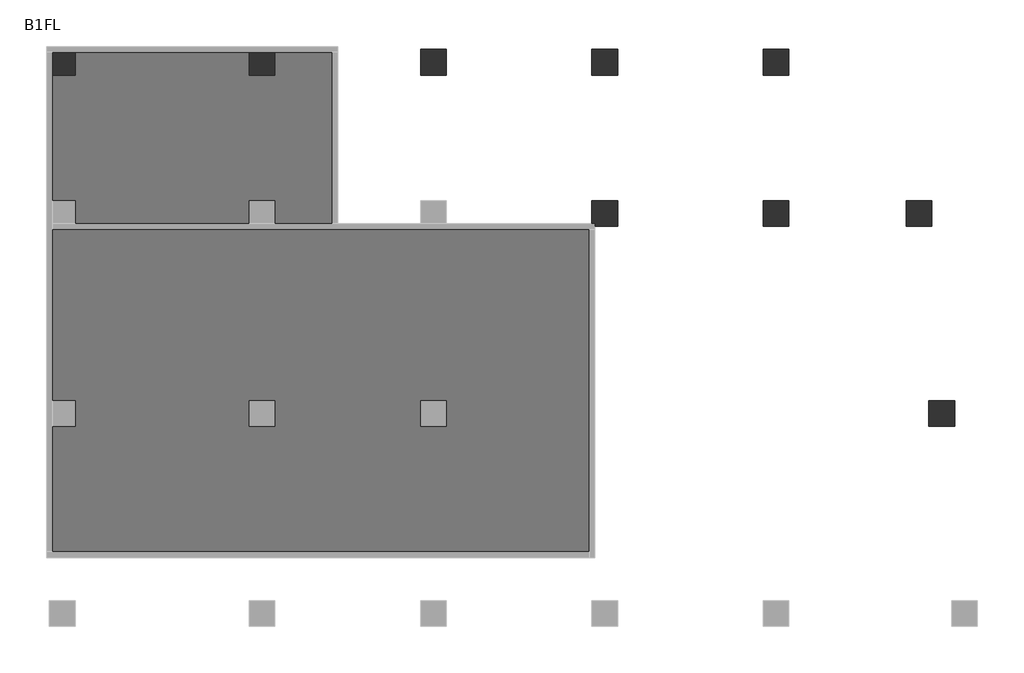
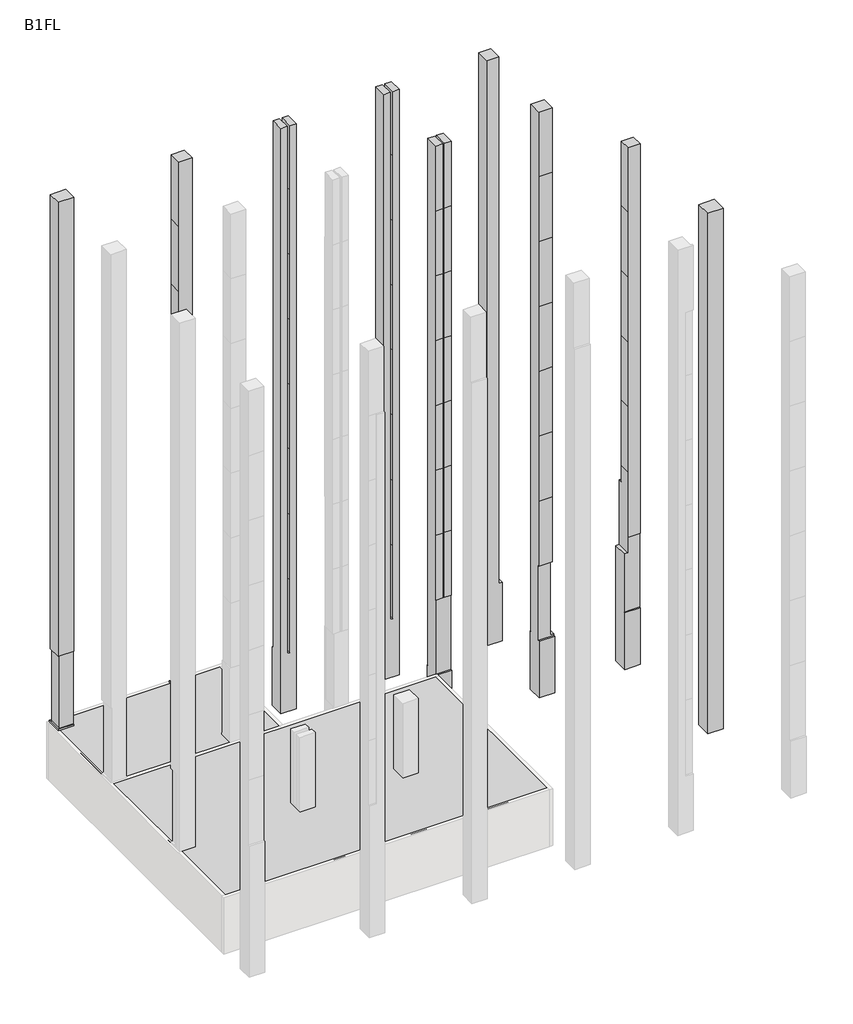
# One storey, part 2 of 2: 9 columns, 2 proxies.
"""IFC4 building model written with IfcOpenShell, lengths in millimetres."""

from ifc_helpers import new_model, si_unit, frame, origin, place, context, project, spatial, polyline, outline, extrude, faceted_brep, transform, mapped, element, save
from components import column_900x900_9fb1827b

model = new_model("IFC4")

# Units and contexts
model_context = context("Model", 3, world=origin())
ifc_project = project(units=[si_unit("LENGTHUNIT", "METRE", prefix="MILLI")], contexts=[model_context])

# Site, building, storey
site = spatial("IfcSite", under=ifc_project)
building = spatial("IfcBuilding", under=site)
storey = spatial("IfcBuildingStorey", under=building, Name="B1FL", Elevation=-3500.0)

# Proxies
placement = place(None, origin())
element("IfcBuildingElementProxy", 1, Name="i_共用9 : i_共用9", ObjectType="i_共用9 : i_共用9", at=placement, inside=storey, context=model_context, shape_type="SweptSolid", body=[
    extrude(outline(polyline([(-18845.9784025, 16649.6868987), (-18845.9784025, 10449.6868987), (-28845.9784025, 10449.6868987), (-28845.9784025, 16649.6868987), (-18845.9784025, 16649.6868987)])), frame((0.0, 0.0, -3500.0), z_axis=(0.0, 0.0, 1.0), x_axis=(1.0, 0.0, 0.0)), (0.0, 0.0, 1.0), 3500.0),
])
element("IfcBuildingElementProxy", 2, Name="i_共用10 : i_共用10", ObjectType="i_共用10 : i_共用10", at=placement, inside=storey, context=model_context, shape_type="SweptSolid", body=[
    extrude(outline(polyline([(-9845.9784025, 10449.6868987), (-9845.9784025, -1050.3131013), (-28845.9784025, -1050.3131013), (-28845.9784025, 10449.6868987), (-9845.9784025, 10449.6868987)])), frame((0.0, 0.0, -3500.0), z_axis=(0.0, 0.0, 1.0), x_axis=(1.0, 0.0, 0.0)), (0.0, 0.0, 1.0), 3500.0),
])

# Columns
element("IfcColumn", 3, ObjectType="r 矩形柱 : 900x900", at=placement, inside=storey, context=model_context, shape_type="Brep", body=[
    faceted_brep([(-28845.9784025, 15749.6868987, 32600.0), (-27945.9784025, 15749.6868987, 32600.0), (-27945.9784025, 16549.6868987, 32600.0), (-28845.9784025, 16549.6868987, 32600.0), (-27945.9784025, 16549.6868987, -3500.0), (-27945.9784025, 15749.6868987, -3500.0), (-28745.9784025, 15749.6868987, -3500.0), (-28745.9784025, 16549.6868987, -3500.0), (-27945.9784025, 16549.6868987, 8600.0), (-27945.9784025, 16549.6868987, 12600.0), (-27945.9784025, 16549.6868987, 16600.0), (-27945.9784025, 16549.6868987, 20600.0), (-27945.9784025, 16549.6868987, 24600.0), (-27945.9784025, 16549.6868987, 28600.0), (-27945.9784025, 15749.6868987, 4600.0), (-27945.9784025, 15799.6868987, 4600.0), (-27945.9784025, 15799.6868987, 100.0), (-27945.9784025, 15749.6868987, 100.0), (-27945.9784025, 16549.6868987, 0.0), (-27945.9784025, 16649.6868987, 0.0), (-27945.9784025, 16649.6868987, 100.0), (-27945.9784025, 16549.6868987, 100.0), (-27945.9784025, 16549.6868987, 4600.0), (-28845.9784025, 16549.6868987, 12600.0), (-28845.9784025, 16549.6868987, 8600.0), (-28845.9784025, 16549.6868987, 4600.0), (-28845.9784025, 15749.6868987, 4600.0), (-28845.9784025, 16549.6868987, 28600.0), (-28845.9784025, 16549.6868987, 24600.0), (-28845.9784025, 16549.6868987, 20600.0), (-28845.9784025, 16549.6868987, 16600.0), (-28745.9784025, 15749.6868987, 4600.0), (-28845.9784025, 16649.6868987, 100.0), (-28845.9784025, 16649.6868987, 0.0), (-28745.9784025, 16549.6868987, 4600.0), (-28745.9784025, 16549.6868987, 100.0), (-28845.9784025, 16549.6868987, 100.0), (-28745.9784025, 15799.6868987, 100.0), (-28745.9784025, 15799.6868987, 4600.0), (-28845.9784025, 15749.6868987, 100.0), (-28745.9784025, 15749.6868987, 100.0), (-28845.9784025, 16549.6868987, 0.0), (-28845.9784025, 15749.6868987, 0.0), (-28745.9784025, 16549.6868987, 0.0), (-28745.9784025, 15749.6868987, 0.0)], [[[0, 1, 2, 3]], [[4, 5, 6, 7]], [[8, 9, 10, 11, 12, 13, 2, 1, 14, 15, 16, 17, 5, 4, 18, 19, 20, 21, 22]], [[23, 24, 25, 26, 0, 3, 27, 28, 29, 30]], [[1, 0, 26, 31, 14]], [[9, 8, 24, 23]], [[32, 20, 19, 33]], [[8, 22, 34, 25, 24]], [[10, 9, 23, 30]], [[11, 10, 30, 29]], [[12, 11, 29, 28]], [[13, 12, 28, 27]], [[3, 2, 13, 27]], [[22, 21, 35, 34]], [[21, 20, 32, 36, 35]], [[34, 35, 37, 38]], [[36, 39, 40, 37, 35]], [[26, 25, 34, 38, 31]], [[36, 32, 33, 41, 42, 39]], [[18, 4, 7, 43]], [[19, 18, 43, 41, 33]], [[44, 43, 7, 6]], [[43, 44, 42, 41]], [[37, 16, 15, 38]], [[16, 37, 40, 17]], [[38, 15, 14, 31]], [[40, 39, 42, 44, 6, 5, 17]]]),
])
element("IfcColumn", 4, ObjectType="r 矩形柱 : 900x900", at=placement, inside=storey, context=model_context, shape_type="Brep", body=[
    faceted_brep([(-21020.9784025, 15749.6868987, 32600.0), (-21020.9784025, 16549.6868987, 32600.0), (-21795.9784025, 16549.6868987, 32600.0), (-21795.9784025, 15749.6868987, 32600.0), (-20945.9784025, 15749.6868987, -3500.0), (-21845.9784025, 15749.6868987, -3500.0), (-21845.9784025, 16549.6868987, -3500.0), (-20945.9784025, 16549.6868987, -3500.0), (-20945.9784025, 15749.6868987, 100.0), (-21020.9784025, 15749.6868987, 100.0), (-21020.9784025, 15749.6868987, 4600.0), (-21020.9784025, 15749.6868987, 8600.0), (-21020.9784025, 15749.6868987, 12600.0), (-21020.9784025, 15749.6868987, 16600.0), (-21020.9784025, 15749.6868987, 20600.0), (-21020.9784025, 15749.6868987, 24600.0), (-21020.9784025, 15749.6868987, 28600.0), (-21795.9784025, 15749.6868987, 28600.0), (-21795.9784025, 15749.6868987, 24600.0), (-21795.9784025, 15749.6868987, 20600.0), (-21795.9784025, 15749.6868987, 16600.0), (-21795.9784025, 15749.6868987, 12600.0), (-21795.9784025, 15749.6868987, 8600.0), (-21795.9784025, 15749.6868987, 4600.0), (-21795.9784025, 15749.6868987, 100.0), (-21845.9784025, 15749.6868987, 100.0), (-21020.9784025, 16549.6868987, 12600.0), (-21020.9784025, 16549.6868987, 8600.0), (-21795.9784025, 16549.6868987, 8600.0), (-21795.9784025, 16549.6868987, 12600.0), (-21845.9784025, 16649.6868987, 100.0), (-20945.9784025, 16649.6868987, 100.0), (-20945.9784025, 16649.6868987, 0.0), (-21845.9784025, 16649.6868987, 0.0), (-20945.9784025, 16549.6868987, 100.0), (-20945.9784025, 16549.6868987, 0.0), (-21845.9784025, 16549.6868987, 100.0), (-21845.9784025, 16549.6868987, 0.0), (-21020.9784025, 16549.6868987, 4600.0), (-21795.9784025, 16549.6868987, 4600.0), (-21795.9784025, 16549.6868987, 16600.0), (-21020.9784025, 16549.6868987, 16600.0), (-21795.9784025, 16549.6868987, 20600.0), (-21020.9784025, 16549.6868987, 20600.0), (-21795.9784025, 16549.6868987, 24600.0), (-21020.9784025, 16549.6868987, 24600.0), (-21795.9784025, 16549.6868987, 28600.0), (-21020.9784025, 16549.6868987, 28600.0), (-21020.9784025, 16549.6868987, 100.0), (-21795.9784025, 16549.6868987, 100.0)], [[[0, 1, 2, 3]], [[4, 5, 6, 7]], [[5, 4, 8, 9, 10, 11, 12, 13, 14, 15, 16, 0, 3, 17, 18, 19, 20, 21, 22, 23, 24, 25]], [[26, 27, 28, 29]], [[30, 31, 32, 33]], [[12, 11, 27, 26]], [[31, 34, 8, 4, 7, 35, 32]], [[22, 21, 29, 28]], [[36, 30, 33, 37, 6, 5, 25]], [[28, 27, 38, 39]], [[11, 10, 38, 27]], [[23, 22, 28, 39]], [[26, 29, 40, 41]], [[13, 12, 26, 41]], [[21, 20, 40, 29]], [[41, 40, 42, 43]], [[14, 13, 41, 43]], [[20, 19, 42, 40]], [[43, 42, 44, 45]], [[15, 14, 43, 45]], [[19, 18, 44, 42]], [[45, 44, 46, 47]], [[16, 15, 45, 47]], [[18, 17, 46, 44]], [[47, 46, 2, 1]], [[1, 0, 16, 47]], [[3, 2, 46, 17]], [[39, 38, 48, 49]], [[31, 30, 36, 49, 48, 34]], [[9, 48, 38, 10]], [[48, 9, 8, 34]], [[37, 35, 7, 6]], [[35, 37, 33, 32]], [[49, 24, 23, 39]], [[24, 49, 36, 25]]]),
])
element("IfcColumn", 5, ObjectType="r 矩形柱 : 900x900", at=placement, inside=storey, context=model_context, shape_type="Brep", body=[
    faceted_brep([(-14945.9784025, 15749.6868987, 32600.0), (-14945.9784025, 16549.6868987, 32600.0), (-15320.9784025, 16549.6868987, 32600.0), (-15320.9784025, 15749.6868987, 32600.0), (-14945.9784025, 15749.6868987, -3500.0), (-15845.9784025, 15749.6868987, -3500.0), (-15845.9784025, 16649.6868987, -3500.0), (-14945.9784025, 16649.6868987, -3500.0), (-14945.9784025, 16649.6868987, 100.0), (-14945.9784025, 16549.6868987, 100.0), (-14945.9784025, 16549.6868987, 4600.0), (-14945.9784025, 16549.6868987, 8600.0), (-14945.9784025, 16549.6868987, 12600.0), (-14945.9784025, 16549.6868987, 16600.0), (-14945.9784025, 16549.6868987, 20600.0), (-14945.9784025, 16549.6868987, 24600.0), (-14945.9784025, 16549.6868987, 28600.0), (-15845.9784025, 15749.6868987, 32600.0), (-15845.9784025, 16549.6868987, 32600.0), (-15845.9784025, 16549.6868987, 28600.0), (-15845.9784025, 16549.6868987, 24600.0), (-15845.9784025, 16549.6868987, 20600.0), (-15845.9784025, 16549.6868987, 16600.0), (-15845.9784025, 16549.6868987, 12600.0), (-15845.9784025, 16549.6868987, 8600.0), (-15845.9784025, 16549.6868987, 4600.0), (-15845.9784025, 16549.6868987, 100.0), (-15845.9784025, 16649.6868987, 100.0), (-15320.9784025, 15749.6868987, 28600.0), (-15320.9784025, 15749.6868987, 24600.0), (-15320.9784025, 15749.6868987, 20600.0), (-15320.9784025, 15749.6868987, 16600.0), (-15320.9784025, 15749.6868987, 12600.0), (-15320.9784025, 15749.6868987, 8600.0), (-15320.9784025, 15749.6868987, 4600.0), (-15320.9784025, 15749.6868987, 100.0), (-15470.9784025, 15749.6868987, 100.0), (-15470.9784025, 15749.6868987, 4600.0), (-15470.9784025, 15749.6868987, 8600.0), (-15470.9784025, 15749.6868987, 12600.0), (-15470.9784025, 15749.6868987, 16600.0), (-15470.9784025, 15749.6868987, 20600.0), (-15470.9784025, 15749.6868987, 24600.0), (-15470.9784025, 15749.6868987, 28600.0), (-15470.9784025, 15749.6868987, 32600.0), (-15470.9784025, 16549.6868987, 12600.0), (-15470.9784025, 16549.6868987, 8600.0), (-15320.9784025, 16549.6868987, 12600.0), (-15320.9784025, 16549.6868987, 8600.0), (-15470.9784025, 16549.6868987, 4600.0), (-15320.9784025, 16549.6868987, 4600.0), (-15470.9784025, 16549.6868987, 16600.0), (-15320.9784025, 16549.6868987, 16600.0), (-15470.9784025, 16549.6868987, 20600.0), (-15320.9784025, 16549.6868987, 20600.0), (-15470.9784025, 16549.6868987, 24600.0), (-15320.9784025, 16549.6868987, 24600.0), (-15470.9784025, 16549.6868987, 28600.0), (-15320.9784025, 16549.6868987, 28600.0), (-15470.9784025, 16549.6868987, 32600.0), (-15470.9784025, 16549.6868987, 100.0), (-15320.9784025, 16549.6868987, 100.0)], [[[0, 1, 2, 3]], [[4, 5, 6, 7]], [[4, 7, 8, 9, 10, 11, 12, 13, 14, 15, 16, 1, 0]], [[6, 5, 17, 18, 19, 20, 21, 22, 23, 24, 25, 26, 27]], [[5, 4, 0, 3, 28, 29, 30, 31, 32, 33, 34, 35, 36, 37, 38, 39, 40, 41, 42, 43, 44, 17]], [[24, 23, 45, 46]], [[7, 6, 27, 8]], [[33, 32, 47, 48]], [[39, 38, 46, 45]], [[12, 11, 48, 47]], [[25, 24, 46, 49]], [[34, 33, 48, 50]], [[38, 37, 49, 46]], [[11, 10, 50, 48]], [[23, 22, 51, 45]], [[32, 31, 52, 47]], [[40, 39, 45, 51]], [[13, 12, 47, 52]], [[22, 21, 53, 51]], [[31, 30, 54, 52]], [[41, 40, 51, 53]], [[14, 13, 52, 54]], [[21, 20, 55, 53]], [[30, 29, 56, 54]], [[42, 41, 53, 55]], [[15, 14, 54, 56]], [[20, 19, 57, 55]], [[29, 28, 58, 56]], [[43, 42, 55, 57]], [[16, 15, 56, 58]], [[19, 18, 59, 57]], [[3, 2, 58, 28]], [[59, 44, 43, 57]], [[18, 17, 44, 59]], [[1, 16, 58, 2]], [[26, 25, 49, 60]], [[9, 8, 27, 26, 60, 61]], [[61, 35, 34, 50]], [[36, 60, 49, 37]], [[35, 61, 60, 36]], [[10, 9, 61, 50]]]),
])
element("IfcColumn", 6, ObjectType="r 矩形柱 : 900x900", at=placement, inside=storey, context=model_context, shape_type="Brep", body=[
    faceted_brep([(-8945.9784025, 15749.6868987, 32600.0), (-8945.9784025, 16549.6868987, 32600.0), (-9320.9784025, 16549.6868987, 32600.0), (-9320.9784025, 15749.6868987, 32600.0), (-8945.9784025, 15749.6868987, -3500.0), (-9845.9784025, 15749.6868987, -3500.0), (-9845.9784025, 16649.6868987, -3500.0), (-8945.9784025, 16649.6868987, -3500.0), (-8945.9784025, 16649.6868987, 100.0), (-8945.9784025, 16549.6868987, 100.0), (-8945.9784025, 16549.6868987, 4600.0), (-8945.9784025, 16549.6868987, 8600.0), (-8945.9784025, 16549.6868987, 12600.0), (-8945.9784025, 16549.6868987, 16600.0), (-8945.9784025, 16549.6868987, 20600.0), (-8945.9784025, 16549.6868987, 24600.0), (-8945.9784025, 16549.6868987, 28600.0), (-9845.9784025, 15749.6868987, 32600.0), (-9845.9784025, 16549.6868987, 32600.0), (-9845.9784025, 16549.6868987, 28600.0), (-9845.9784025, 16549.6868987, 24600.0), (-9845.9784025, 16549.6868987, 20600.0), (-9845.9784025, 16549.6868987, 16600.0), (-9845.9784025, 16549.6868987, 12600.0), (-9845.9784025, 16549.6868987, 8600.0), (-9845.9784025, 16549.6868987, 4600.0), (-9845.9784025, 16549.6868987, 100.0), (-9845.9784025, 16649.6868987, 100.0), (-9320.9784025, 15749.6868987, 28600.0), (-9320.9784025, 15749.6868987, 24600.0), (-9320.9784025, 15749.6868987, 20600.0), (-9320.9784025, 15749.6868987, 16600.0), (-9320.9784025, 15749.6868987, 12600.0), (-9320.9784025, 15749.6868987, 8600.0), (-9320.9784025, 15749.6868987, 4600.0), (-9320.9784025, 15749.6868987, 100.0), (-9470.9784025, 15749.6868987, 100.0), (-9470.9784025, 15749.6868987, 4600.0), (-9470.9784025, 15749.6868987, 8600.0), (-9470.9784025, 15749.6868987, 12600.0), (-9470.9784025, 15749.6868987, 16600.0), (-9470.9784025, 15749.6868987, 20600.0), (-9470.9784025, 15749.6868987, 24600.0), (-9470.9784025, 15749.6868987, 28600.0), (-9470.9784025, 15749.6868987, 32600.0), (-9470.9784025, 16549.6868987, 12600.0), (-9470.9784025, 16549.6868987, 8600.0), (-9320.9784025, 16549.6868987, 12600.0), (-9320.9784025, 16549.6868987, 8600.0), (-9470.9784025, 16549.6868987, 4600.0), (-9320.9784025, 16549.6868987, 4600.0), (-9470.9784025, 16549.6868987, 16600.0), (-9320.9784025, 16549.6868987, 16600.0), (-9470.9784025, 16549.6868987, 20600.0), (-9320.9784025, 16549.6868987, 20600.0), (-9470.9784025, 16549.6868987, 24600.0), (-9320.9784025, 16549.6868987, 24600.0), (-9470.9784025, 16549.6868987, 28600.0), (-9320.9784025, 16549.6868987, 28600.0), (-9470.9784025, 16549.6868987, 32600.0), (-9470.9784025, 16549.6868987, 100.0), (-9320.9784025, 16549.6868987, 100.0)], [[[0, 1, 2, 3]], [[4, 5, 6, 7]], [[4, 7, 8, 9, 10, 11, 12, 13, 14, 15, 16, 1, 0]], [[6, 5, 17, 18, 19, 20, 21, 22, 23, 24, 25, 26, 27]], [[5, 4, 0, 3, 28, 29, 30, 31, 32, 33, 34, 35, 36, 37, 38, 39, 40, 41, 42, 43, 44, 17]], [[24, 23, 45, 46]], [[7, 6, 27, 8]], [[39, 38, 46, 45]], [[33, 32, 47, 48]], [[12, 11, 48, 47]], [[25, 24, 46, 49]], [[38, 37, 49, 46]], [[34, 33, 48, 50]], [[11, 10, 50, 48]], [[23, 22, 51, 45]], [[40, 39, 45, 51]], [[32, 31, 52, 47]], [[13, 12, 47, 52]], [[22, 21, 53, 51]], [[41, 40, 51, 53]], [[31, 30, 54, 52]], [[14, 13, 52, 54]], [[21, 20, 55, 53]], [[42, 41, 53, 55]], [[30, 29, 56, 54]], [[15, 14, 54, 56]], [[20, 19, 57, 55]], [[43, 42, 55, 57]], [[29, 28, 58, 56]], [[16, 15, 56, 58]], [[19, 18, 59, 57]], [[59, 44, 43, 57]], [[3, 2, 58, 28]], [[18, 17, 44, 59]], [[1, 16, 58, 2]], [[26, 25, 49, 60]], [[9, 8, 27, 26, 60, 61]], [[36, 60, 49, 37]], [[61, 35, 34, 50]], [[60, 36, 35, 61]], [[10, 9, 61, 50]]]),
])
element("IfcColumn", 7, ObjectType="r 矩形柱 : 900x900", at=placement, inside=storey, context=model_context, shape_type="Brep", body=[
    faceted_brep([(-9345.9784025, 11299.6868987, 32600.0), (-9345.9784025, 10499.6868987, 32600.0), (-8945.9784025, 10499.6868987, 32600.0), (-8945.9784025, 11299.6868987, 32600.0), (-9845.9784025, 11349.6868987, -3500.0), (-8945.9784025, 11349.6868987, -3500.0), (-8945.9784025, 10449.6868987, -3500.0), (-9745.9784025, 10449.6868987, -3500.0), (-9745.9784025, 10549.6868987, -3500.0), (-9845.9784025, 10549.6868987, -3500.0), (-8945.9784025, 11349.6868987, 100.0), (-8945.9784025, 11299.6868987, 100.0), (-8945.9784025, 11299.6868987, 4600.0), (-8945.9784025, 11299.6868987, 8600.0), (-8945.9784025, 11299.6868987, 12600.0), (-8945.9784025, 11349.6868987, 12600.0), (-8945.9784025, 11349.6868987, 28600.0), (-8945.9784025, 11299.6868987, 28600.0), (-8945.9784025, 10499.6868987, 28600.0), (-8945.9784025, 10499.6868987, 24600.0), (-8945.9784025, 10499.6868987, 20600.0), (-8945.9784025, 10499.6868987, 16600.0), (-8945.9784025, 10499.6868987, 12600.0), (-8945.9784025, 10499.6868987, 8600.0), (-8945.9784025, 10499.6868987, 4600.0), (-8945.9784025, 10524.6868987, 4600.0), (-8945.9784025, 10524.6868987, 0.0), (-8945.9784025, 10449.6868987, 0.0), (-9345.9784025, 11349.6868987, 12600.0), (-9345.9784025, 11349.6868987, 16600.0), (-9345.9784025, 11349.6868987, 20600.0), (-9345.9784025, 11349.6868987, 24600.0), (-9345.9784025, 11349.6868987, 28600.0), (-9845.9784025, 10499.6868987, 8600.0), (-9845.9784025, 10499.6868987, 12600.0), (-9845.9784025, 10499.6868987, 16600.0), (-9845.9784025, 10499.6868987, 20600.0), (-9845.9784025, 10499.6868987, 24600.0), (-9845.9784025, 10499.6868987, 28600.0), (-9845.9784025, 10499.6868987, 32600.0), (-9845.9784025, 11299.6868987, 32600.0), (-9845.9784025, 11299.6868987, 28600.0), (-9845.9784025, 11299.6868987, 24600.0), (-9845.9784025, 11299.6868987, 20600.0), (-9845.9784025, 11299.6868987, 16600.0), (-9845.9784025, 11299.6868987, 12600.0), (-9845.9784025, 11299.6868987, 8600.0), (-9845.9784025, 11299.6868987, 4600.0), (-9845.9784025, 11299.6868987, 100.0), (-9845.9784025, 11349.6868987, 100.0), (-9845.9784025, 10549.6868987, 0.0), (-9845.9784025, 10524.6868987, 0.0), (-9845.9784025, 10524.6868987, 4600.0), (-9845.9784025, 10499.6868987, 4600.0), (-9345.9784025, 10499.6868987, 12600.0), (-9345.9784025, 10499.6868987, 8600.0), (-9745.9784025, 10449.6868987, 0.0), (-9445.9784025, 11299.6868987, 12600.0), (-9445.9784025, 11299.6868987, 8600.0), (-9345.9784025, 11299.6868987, 12600.0), (-9445.9784025, 10499.6868987, 12600.0), (-9445.9784025, 10499.6868987, 8600.0), (-9345.9784025, 11299.6868987, 8600.0), (-9345.9784025, 10499.6868987, 4600.0), (-9445.9784025, 11299.6868987, 4600.0), (-9445.9784025, 10499.6868987, 4600.0), (-9445.9784025, 10524.6868987, 4600.0), (-9345.9784025, 11299.6868987, 4600.0), (-9345.9784025, 10524.6868987, 4600.0), (-9345.9784025, 10499.6868987, 16600.0), (-9445.9784025, 11299.6868987, 16600.0), (-9345.9784025, 11299.6868987, 16600.0), (-9445.9784025, 10499.6868987, 16600.0), (-9345.9784025, 10499.6868987, 20600.0), (-9445.9784025, 11299.6868987, 20600.0), (-9345.9784025, 11299.6868987, 20600.0), (-9445.9784025, 10499.6868987, 20600.0), (-9345.9784025, 10499.6868987, 24600.0), (-9445.9784025, 11299.6868987, 24600.0), (-9345.9784025, 11299.6868987, 24600.0), (-9445.9784025, 10499.6868987, 24600.0), (-9345.9784025, 10499.6868987, 28600.0), (-9445.9784025, 11299.6868987, 28600.0), (-9345.9784025, 11299.6868987, 28600.0), (-9445.9784025, 10499.6868987, 28600.0), (-9445.9784025, 11299.6868987, 32600.0), (-9445.9784025, 10499.6868987, 32600.0), (-9745.9784025, 10549.6868987, 0.0), (-9745.9784025, 10524.6868987, 0.0)], [[[0, 1, 2, 3]], [[4, 5, 6, 7, 8, 9]], [[6, 5, 10, 11, 12, 13, 14, 15, 16, 17, 3, 2, 18, 19, 20, 21, 22, 23, 24, 25, 26, 27]], [[28, 29, 30, 31, 32, 16, 15]], [[33, 34, 35, 36, 37, 38, 39, 40, 41, 42, 43, 44, 45, 46, 47, 48, 49, 4, 9, 50, 51, 52, 53]], [[23, 22, 54, 55]], [[7, 6, 27, 56]], [[46, 45, 57, 58]], [[15, 14, 59, 28]], [[60, 61, 58, 57]], [[55, 54, 59, 62]], [[34, 33, 61, 60]], [[24, 23, 55, 63]], [[47, 46, 58, 64]], [[58, 61, 65, 66, 64]], [[55, 62, 67, 68, 63]], [[67, 64, 66, 68]], [[33, 53, 65, 61]], [[22, 21, 69, 54]], [[45, 44, 70, 57]], [[29, 28, 59, 71]], [[60, 57, 70, 72]], [[59, 54, 69, 71]], [[35, 34, 60, 72]], [[21, 20, 73, 69]], [[44, 43, 74, 70]], [[30, 29, 71, 75]], [[72, 70, 74, 76]], [[71, 69, 73, 75]], [[36, 35, 72, 76]], [[20, 19, 77, 73]], [[43, 42, 78, 74]], [[31, 30, 75, 79]], [[76, 74, 78, 80]], [[75, 73, 77, 79]], [[37, 36, 76, 80]], [[19, 18, 81, 77]], [[42, 41, 82, 78]], [[32, 31, 79, 83]], [[80, 78, 82, 84]], [[79, 77, 81, 83]], [[38, 37, 80, 84]], [[41, 40, 85, 82]], [[16, 32, 83, 17]], [[85, 86, 84, 82]], [[1, 0, 83, 81]], [[2, 1, 81, 18]], [[85, 40, 39, 86]], [[86, 39, 38, 84]], [[11, 48, 47, 64, 67, 12]], [[48, 11, 10, 49]], [[8, 87, 50, 9]], [[50, 87, 88, 51]], [[87, 8, 7, 56, 88]], [[25, 68, 66, 52, 51, 88, 26]], [[26, 88, 56, 27]], [[52, 66, 65, 53]], [[68, 25, 24, 63]], [[17, 83, 0, 3]], [[5, 4, 49, 10]], [[14, 13, 62, 59]], [[13, 12, 67, 62]]]),
])
element("IfcColumn", 8, ObjectType="r 矩形柱 : 900x900", at=placement, inside=storey, context=model_context, shape_type="Brep", body=[
    faceted_brep([(-3845.9784025, 16549.6868987, 32600.0), (-3845.9784025, 15749.6868987, 32600.0), (-3145.9784025, 15749.6868987, 32600.0), (-3145.9784025, 16549.6868987, 32600.0), (-2945.9784025, 15749.6868987, -3500.0), (-3845.9784025, 15749.6868987, -3500.0), (-3845.9784025, 16649.6868987, -3500.0), (-2945.9784025, 16649.6868987, -3500.0), (-3845.9784025, 16549.6868987, 28600.0), (-3845.9784025, 16549.6868987, 24600.0), (-3845.9784025, 16549.6868987, 20600.0), (-3845.9784025, 16549.6868987, 16600.0), (-3845.9784025, 16549.6868987, 12600.0), (-3845.9784025, 16549.6868987, 8600.0), (-3845.9784025, 16549.6868987, 4600.0), (-3845.9784025, 16549.6868987, 100.0), (-3845.9784025, 16649.6868987, 100.0), (-2945.9784025, 15749.6868987, 100.0), (-3145.9784025, 15749.6868987, 100.0), (-3145.9784025, 15749.6868987, 4600.0), (-3145.9784025, 15749.6868987, 8600.0), (-3145.9784025, 15749.6868987, 12600.0), (-3145.9784025, 15749.6868987, 16600.0), (-3145.9784025, 15749.6868987, 20600.0), (-3145.9784025, 15749.6868987, 24600.0), (-3145.9784025, 15749.6868987, 28600.0), (-3145.9784025, 16549.6868987, 12600.0), (-3145.9784025, 16549.6868987, 8600.0), (-2945.9784025, 16649.6868987, 100.0), (-2945.9784025, 16549.6868987, 100.0), (-3145.9784025, 16549.6868987, 4600.0), (-3145.9784025, 16549.6868987, 16600.0), (-3145.9784025, 16549.6868987, 20600.0), (-3145.9784025, 16549.6868987, 24600.0), (-3145.9784025, 16549.6868987, 28600.0), (-3145.9784025, 16549.6868987, 100.0)], [[[0, 1, 2, 3]], [[4, 5, 6, 7]], [[6, 5, 1, 0, 8, 9, 10, 11, 12, 13, 14, 15, 16]], [[5, 4, 17, 18, 19, 20, 21, 22, 23, 24, 25, 2, 1]], [[13, 12, 26, 27]], [[21, 20, 27, 26]], [[7, 6, 16, 28]], [[4, 7, 28, 29, 17]], [[14, 13, 27, 30]], [[20, 19, 30, 27]], [[12, 11, 31, 26]], [[22, 21, 26, 31]], [[11, 10, 32, 31]], [[23, 22, 31, 32]], [[10, 9, 33, 32]], [[24, 23, 32, 33]], [[9, 8, 34, 33]], [[25, 24, 33, 34]], [[8, 0, 3, 34]], [[3, 2, 25, 34]], [[15, 14, 30, 35]], [[16, 15, 35, 29, 28]], [[18, 35, 30, 19]], [[35, 18, 17, 29]]]),
])
element("IfcColumn", 9, ObjectType="r 矩形柱 : 900x900", at=placement, inside=storey, context=model_context, shape_type="Brep", body=[
    faceted_brep([(-3045.9784025, 10549.6868987, 32600.0), (-3045.9784025, 11299.6868987, 32600.0), (-3845.9784025, 11299.6868987, 32600.0), (-3845.9784025, 10499.6868987, 32600.0), (-3045.9784025, 10499.6868987, 32600.0), (-2945.9784025, 10449.6868987, -3500.0), (-3845.9784025, 10449.6868987, -3500.0), (-3845.9784025, 11349.6868987, -3500.0), (-2945.9784025, 11349.6868987, -3500.0), (-3845.9784025, 10449.6868987, 0.0), (-3845.9784025, 10524.6868987, 0.0), (-3845.9784025, 10524.6868987, 4600.0), (-3845.9784025, 10499.6868987, 4600.0), (-3845.9784025, 10499.6868987, 8600.0), (-3845.9784025, 10499.6868987, 12600.0), (-3845.9784025, 10499.6868987, 16600.0), (-3845.9784025, 10499.6868987, 20600.0), (-3845.9784025, 10499.6868987, 24600.0), (-3845.9784025, 10499.6868987, 28600.0), (-3845.9784025, 11299.6868987, 28600.0), (-3845.9784025, 11299.6868987, 24600.0), (-3845.9784025, 11299.6868987, 20600.0), (-3845.9784025, 11299.6868987, 16600.0), (-3845.9784025, 11299.6868987, 12600.0), (-3845.9784025, 11299.6868987, 8600.0), (-3845.9784025, 11299.6868987, 4600.0), (-3845.9784025, 11299.6868987, 100.0), (-3845.9784025, 11349.6868987, 100.0), (-3045.9784025, 10499.6868987, 8600.0), (-3045.9784025, 10499.6868987, 12600.0), (-2945.9784025, 10449.6868987, 0.0), (-3045.9784025, 11299.6868987, 8600.0), (-3045.9784025, 11299.6868987, 12600.0), (-2945.9784025, 11349.6868987, 100.0), (-2945.9784025, 10524.6868987, 100.0), (-2945.9784025, 10524.6868987, 0.0), (-3145.9784025, 11349.6868987, 100.0), (-3045.9784025, 10499.6868987, 4600.0), (-3045.9784025, 10524.6868987, 4600.0), (-3045.9784025, 11299.6868987, 4600.0), (-3145.9784025, 11299.6868987, 4600.0), (-3045.9784025, 10499.6868987, 16600.0), (-3045.9784025, 11299.6868987, 16600.0), (-3045.9784025, 10499.6868987, 20600.0), (-3045.9784025, 11299.6868987, 20600.0), (-3045.9784025, 10499.6868987, 24600.0), (-3045.9784025, 11299.6868987, 24600.0), (-3045.9784025, 10499.6868987, 28600.0), (-3045.9784025, 11299.6868987, 28600.0), (-3045.9784025, 10549.6868987, 28600.0), (-3145.9784025, 10524.6868987, 4600.0), (-3145.9784025, 10524.6868987, 100.0), (-3145.9784025, 11299.6868987, 100.0)], [[[0, 1, 2, 3, 4]], [[5, 6, 7, 8]], [[7, 6, 9, 10, 11, 12, 13, 14, 15, 16, 17, 18, 3, 2, 19, 20, 21, 22, 23, 24, 25, 26, 27]], [[14, 13, 28, 29]], [[6, 5, 30, 9]], [[29, 28, 31, 32]], [[24, 23, 32, 31]], [[5, 8, 33, 34, 35, 30]], [[8, 7, 27, 36, 33]], [[13, 12, 37, 28]], [[31, 28, 37, 38, 39]], [[25, 24, 31, 39, 40]], [[15, 14, 29, 41]], [[29, 32, 42, 41]], [[23, 22, 42, 32]], [[16, 15, 41, 43]], [[41, 42, 44, 43]], [[22, 21, 44, 42]], [[17, 16, 43, 45]], [[43, 44, 46, 45]], [[21, 20, 46, 44]], [[18, 17, 45, 47]], [[45, 46, 48, 49, 47]], [[20, 19, 48, 46]], [[49, 48, 1, 0]], [[2, 1, 48, 19]], [[47, 49, 0, 4]], [[4, 3, 18, 47]], [[50, 51, 52, 40]], [[33, 36, 52, 51, 34]], [[40, 39, 38, 50]], [[50, 11, 10, 35, 34, 51]], [[10, 9, 30, 35]], [[11, 50, 38, 37, 12]], [[52, 26, 25, 40]], [[26, 52, 36, 27]]]),
])
element("IfcColumn", 10, ObjectType="r 矩形柱 : 900x900", at=placement, inside=storey, context=model_context, shape_type="Brep", body=[
    faceted_brep([(1354.0215975, 10449.6868987, 28600.0), (2054.0215975, 10449.6868987, 28600.0), (2054.0215975, 11149.6868987, 28600.0), (1354.0215975, 11149.6868987, 28600.0), (2054.0215975, 10449.6868987, -3500.0), (1154.0215975, 10449.6868987, -3500.0), (1154.0215975, 11349.6868987, -3500.0), (2054.0215975, 11349.6868987, -3500.0), (2054.0215975, 11349.6868987, 7600.0), (2054.0215975, 11149.6868987, 7600.0), (2054.0215975, 11149.6868987, 8600.0), (2054.0215975, 11149.6868987, 12600.0), (2054.0215975, 11149.6868987, 16600.0), (2054.0215975, 11149.6868987, 20600.0), (2054.0215975, 11149.6868987, 24600.0), (2054.0215975, 10449.6868987, 4600.0), (2054.0215975, 10524.6868987, 4600.0), (2054.0215975, 10524.6868987, 0.0), (2054.0215975, 10449.6868987, 0.0), (1354.0215975, 10449.6868987, 12600.0), (1354.0215975, 10449.6868987, 8600.0), (1354.0215975, 10449.6868987, 4600.0), (1354.0215975, 10449.6868987, 24600.0), (1354.0215975, 10449.6868987, 20600.0), (1354.0215975, 10449.6868987, 16600.0), (1354.0215975, 11149.6868987, 12600.0), (1354.0215975, 11149.6868987, 8600.0), (1154.0215975, 10449.6868987, 0.0), (1154.0215975, 10524.6868987, 0.0), (1154.0215975, 10524.6868987, 3600.0), (1154.0215975, 11349.6868987, 3600.0), (1354.0215975, 11349.6868987, 3600.0), (1354.0215975, 11349.6868987, 7600.0), (1354.0215975, 11149.6868987, 7600.0), (1354.0215975, 10524.6868987, 3600.0), (1354.0215975, 10524.6868987, 4600.0), (1354.0215975, 11149.6868987, 16600.0), (1354.0215975, 11149.6868987, 20600.0), (1354.0215975, 11149.6868987, 24600.0)], [[[0, 1, 2, 3]], [[4, 5, 6, 7]], [[4, 7, 8, 9, 10, 11, 12, 13, 14, 2, 1, 15, 16, 17, 18]], [[19, 20, 21, 15, 1, 0, 22, 23, 24]], [[20, 19, 25, 26]], [[6, 5, 27, 28, 29, 30]], [[11, 10, 26, 25]], [[7, 6, 30, 31, 32, 8]], [[20, 26, 33, 32, 31, 34, 35, 21]], [[31, 30, 29, 34]], [[9, 33, 26, 10]], [[33, 9, 8, 32]], [[19, 24, 36, 25]], [[12, 11, 25, 36]], [[24, 23, 37, 36]], [[13, 12, 36, 37]], [[23, 22, 38, 37]], [[14, 13, 37, 38]], [[22, 0, 3, 38]], [[2, 14, 38, 3]], [[16, 35, 34, 29, 28, 17]], [[17, 28, 27, 18]], [[35, 16, 15, 21]], [[5, 4, 18, 27]]]),
])
column_900x900_shape = column_900x900_9fb1827b(model_context)
element("IfcColumn", 11, ObjectType="r 矩形柱 : 900x900", at=placement, inside=storey, context=model_context, shape_type="MappedRepresentation", body=[
    mapped(column_900x900_shape, transform((2404.0215975, 3899.6868987, 0.0), x_axis=(1.0, 0.0, 0.0), y_axis=(0.0, 1.0, 0.0), z_axis=(0.0, 0.0, 1.0))),
])

save(model, "model.ifc")
